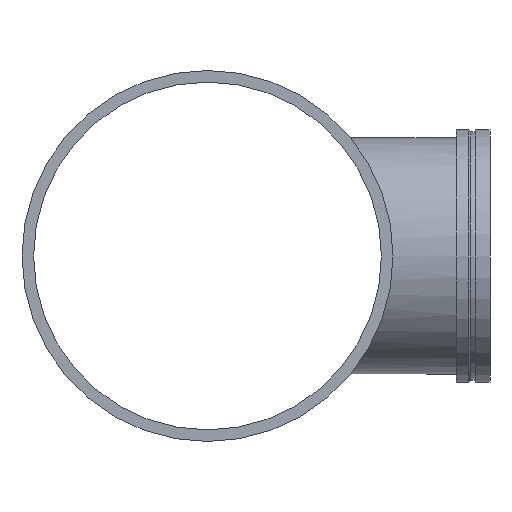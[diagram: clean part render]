
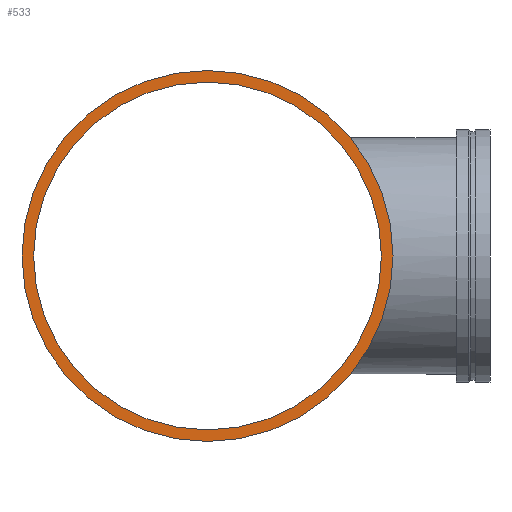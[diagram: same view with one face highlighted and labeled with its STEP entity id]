
A CAD part, left-side view. The second image highlights one B-rep face of the part: STEP entity #533.
In plain terms, the highlighted planar face has unit normal (-1, 0, 0).
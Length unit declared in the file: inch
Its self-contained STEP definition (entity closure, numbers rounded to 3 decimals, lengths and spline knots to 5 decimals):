
#58=FACE_BOUND('',#128,.T.);
#67=PLANE('',#626);
#92=FACE_OUTER_BOUND('',#127,.T.);
#127=EDGE_LOOP('',(#465,#466));
#128=EDGE_LOOP('',(#467,#468));
#151=CIRCLE('',#587,22.);
#152=CIRCLE('',#588,22.);
#175=CIRCLE('',#624,20.625);
#176=CIRCLE('',#625,20.625);
#239=VERTEX_POINT('',#1161);
#240=VERTEX_POINT('',#1163);
#263=VERTEX_POINT('',#1230);
#264=VERTEX_POINT('',#1232);
#299=EDGE_CURVE('',#239,#240,#151,.T.);
#300=EDGE_CURVE('',#240,#239,#152,.T.);
#331=EDGE_CURVE('',#264,#263,#175,.T.);
#332=EDGE_CURVE('',#263,#264,#176,.T.);
#465=ORIENTED_EDGE('',*,*,#300,.F.);
#466=ORIENTED_EDGE('',*,*,#299,.F.);
#467=ORIENTED_EDGE('',*,*,#331,.T.);
#468=ORIENTED_EDGE('',*,*,#332,.T.);
#533=ADVANCED_FACE('',(#92,#58),#67,.T.);
#587=AXIS2_PLACEMENT_3D('',#1164,#716,#717);
#588=AXIS2_PLACEMENT_3D('',#1165,#718,#719);
#624=AXIS2_PLACEMENT_3D('',#1233,#798,#799);
#625=AXIS2_PLACEMENT_3D('',#1234,#800,#801);
#626=AXIS2_PLACEMENT_3D('',#1235,#802,#803);
#716=DIRECTION('center_axis',(1.,0.,0.));
#717=DIRECTION('ref_axis',(0.,0.,1.));
#718=DIRECTION('center_axis',(1.,0.,0.));
#719=DIRECTION('ref_axis',(0.,0.,1.));
#798=DIRECTION('center_axis',(1.,0.,0.));
#799=DIRECTION('ref_axis',(0.,0.,1.));
#800=DIRECTION('center_axis',(1.,0.,0.));
#801=DIRECTION('ref_axis',(0.,0.,1.));
#802=DIRECTION('center_axis',(-1.,0.,0.));
#803=DIRECTION('ref_axis',(0.,0.,-1.));
#1161=CARTESIAN_POINT('',(-36.,22.,0.));
#1163=CARTESIAN_POINT('',(-36.,-22.,0.));
#1164=CARTESIAN_POINT('Origin',(-36.,0.,0.));
#1165=CARTESIAN_POINT('Origin',(-36.,0.,0.));
#1230=CARTESIAN_POINT('',(-36.,20.625,0.));
#1232=CARTESIAN_POINT('',(-36.,-20.625,0.));
#1233=CARTESIAN_POINT('Origin',(-36.,0.,0.));
#1234=CARTESIAN_POINT('Origin',(-36.,0.,0.));
#1235=CARTESIAN_POINT('Origin',(-36.,-22.,0.));
